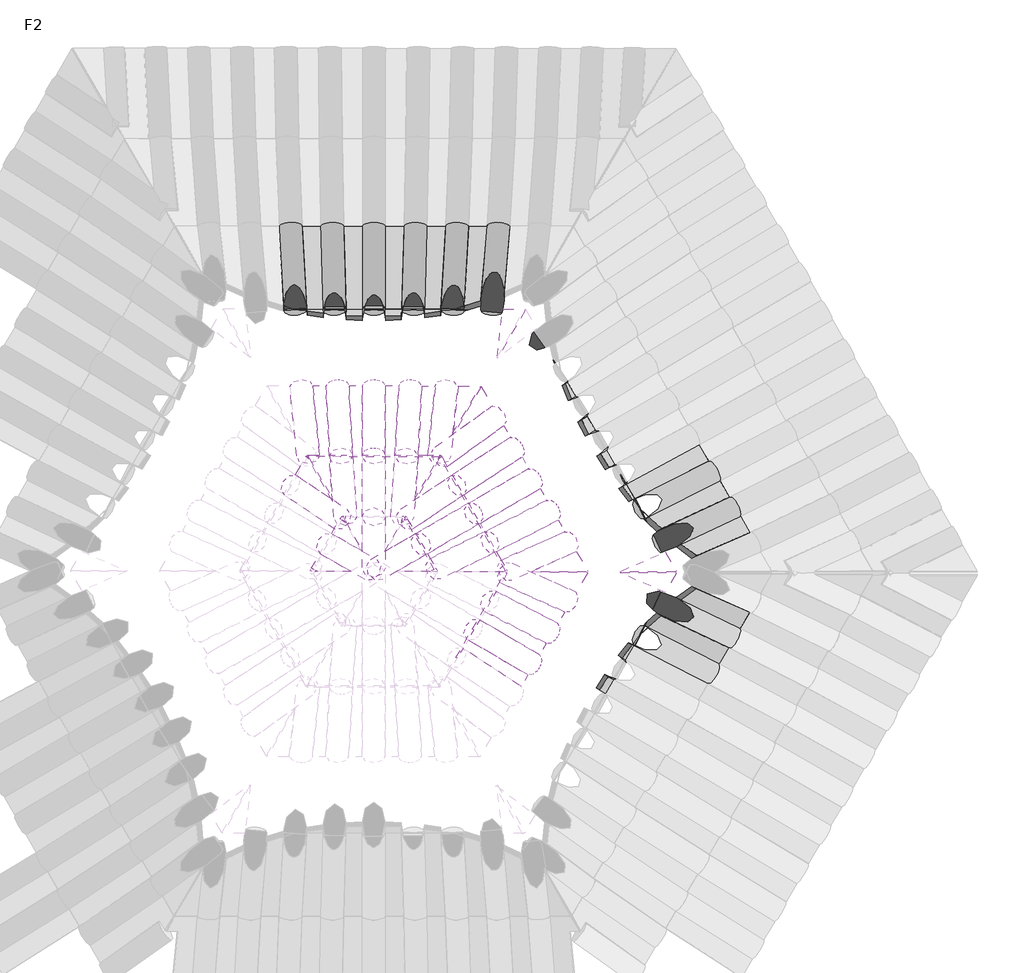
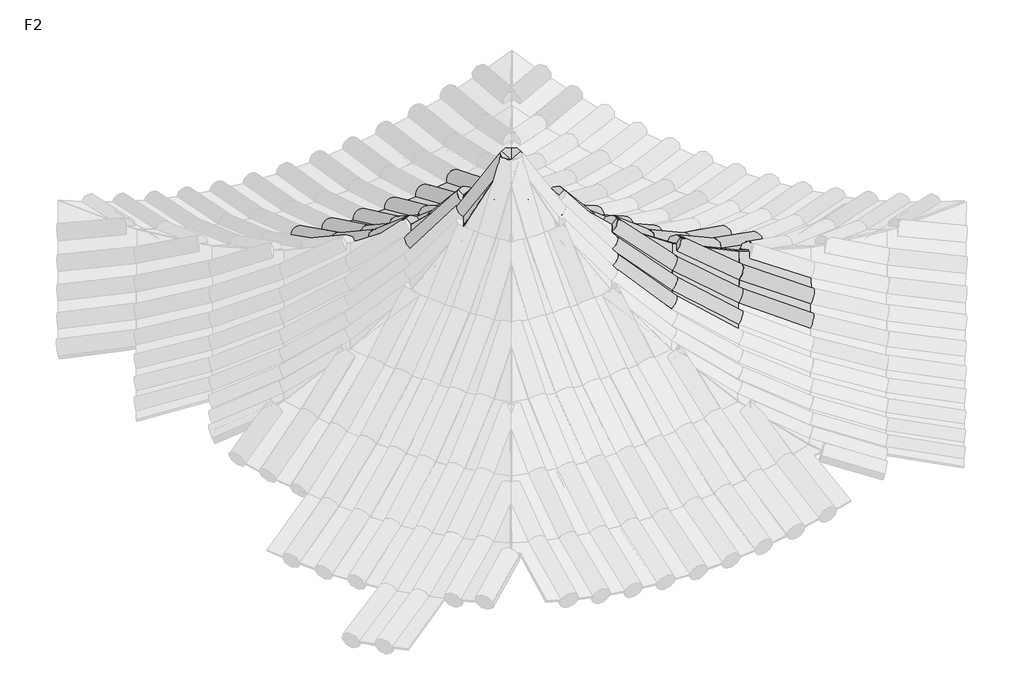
# One storey, part 5 of 6: 63 plates, 49 members.
"""IFC4 building model written with IfcOpenShell, lengths in millimetres."""

from ifc_helpers import new_model, si_unit, origin, place, context, project, spatial, transform, mapped, element, save
from components import member_02d8162e, member_c71233b3, member_69260188, member_985b398b, member_3c0b60bf, member_ee4a1047, member_c9bd8968, member_42887ada, plate_aaafe28a, plate_ecf98e0f, plate_a8a21952, plate_665b0e48, plate_f97c0013, plate_6a16cba0, plate_1539b490, plate_f5328a12, plate_b5858797, plate_013eb8b5, plate_5d4698b8, plate_7408a29d, plate_4d92cb37, plate_6c5d32f2, plate_1e680183, plate_9ed079f8, plate_51358e00, plate_0b5f84b8, plate_823a82dc, plate_c055fcc8

model = new_model("IFC4")

# Units and contexts
model_context = context("Model", 3, world=origin())
ifc_project = project(units=[si_unit("LENGTHUNIT", "METRE", prefix="MILLI")], contexts=[model_context])

# Site, building, storey
site = spatial("IfcSite", under=ifc_project)
building = spatial("IfcBuilding", under=site)
storey = spatial("IfcBuildingStorey", under=building, Name="F2", Elevation=4000.0)

# Members
placement = place(None, origin())
member_shape = member_02d8162e(model_context)
element("IfcMember", 1, ObjectType="矩形竖梃 : 圆瓦", at=placement, inside=storey, context=model_context, shape_type="MappedRepresentation", body=[
    mapped(member_shape, transform((-12317.9901863, 115.8201309, 4854.7494012), x_axis=(0.5016108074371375, 0.8566015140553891, 0.12091502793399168), y_axis=(0.31268739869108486, -0.3098485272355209, 0.8978978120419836), z_axis=(0.8066059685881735, -0.4125866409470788, -0.4232718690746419))),
])
element("IfcMember", 2, ObjectType="矩形竖梃 : 圆瓦", at=placement, inside=storey, context=model_context, shape_type="MappedRepresentation", body=[
    mapped(member_shape, transform((-13126.1918849, 149.9769408, 5158.3526132), x_axis=(0.5043906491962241, 0.861348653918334, 0.06056871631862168), y_axis=(0.44431822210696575, -0.3190507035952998, 0.8371307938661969), z_axis=(0.7403859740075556, -0.3953291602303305, -0.5436390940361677))),
])
element("IfcMember", 3, ObjectType="矩形竖梃 : 圆瓦", at=placement, inside=storey, context=model_context, shape_type="MappedRepresentation", body=[
    mapped(member_shape, transform((-12955.2995896, 441.809965, 5189.1817669), x_axis=(0.5016108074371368, 0.8566015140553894, 0.12091502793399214), y_axis=(0.4187437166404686, -0.36272432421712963, 0.8325171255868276), z_axis=(0.7569942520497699, -0.3669671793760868, -0.5406429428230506))),
])
element("IfcMember", 4, ObjectType="矩形竖梃 : 圆瓦", at=placement, inside=storey, context=model_context, shape_type="MappedRepresentation", body=[
    mapped(member_shape, transform((-13869.5313922, 191.9146, 5578.3897074), x_axis=(0.5053183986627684, 0.8629329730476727, 0.0), y_axis=(0.5634095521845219, -0.3299227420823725, 0.7574435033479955), z_axis=(0.6536229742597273, -0.3827501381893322, -0.6529007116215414))),
])
element("IfcMember", 5, ObjectType="矩形竖梃 : 圆瓦", at=placement, inside=storey, context=model_context, shape_type="MappedRepresentation", body=[
    mapped(member_shape, transform((-13711.1800472, 462.3314249, 5587.8886197), x_axis=(0.504390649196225, 0.8613486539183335, 0.06056871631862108), y_axis=(0.5402268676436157, -0.36951184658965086, 0.7560528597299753), z_axis=(0.6736059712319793, -0.34862514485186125, -0.651702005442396))),
])
element("IfcMember", 6, ObjectType="矩形竖梃 : 圆瓦", at=placement, inside=storey, context=model_context, shape_type="MappedRepresentation", body=[
    mapped(member_shape, transform((-13289.8090148, 2120.3333649, 5148.0636351), x_axis=(-0.49927815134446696, 0.8664417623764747, 0.0), y_axis=(0.47189800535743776, 0.27192637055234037, 0.8386705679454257), z_axis=(0.7266592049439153, 0.4187298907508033, -0.5446390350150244))),
])
element("IfcMember", 7, ObjectType="矩形竖梃 : 圆瓦", at=placement, inside=storey, context=model_context, shape_type="MappedRepresentation", body=[
    mapped(member_shape, transform((-13459.2808653, 2414.4329333, 5158.3526132), x_axis=(-0.4983614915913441, 0.8648510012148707, 0.06056871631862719), y_axis=(0.49725993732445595, 0.22791355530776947, 0.8371307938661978), z_axis=(0.7101889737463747, 0.4473121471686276, -0.5436390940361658))),
])
element("IfcMember", 8, ObjectType="矩形竖梃 : 圆瓦", at=placement, inside=storey, context=model_context, shape_type="MappedRepresentation", body=[
    mapped(member_shape, transform((-13628.1304253, 2707.4525858, 5189.1817669), x_axis=(-0.49561487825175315, 0.8600845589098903, 0.12091502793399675), y_axis=(0.5225287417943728, 0.1840623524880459, 0.8325171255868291), z_axis=(0.6937792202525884, 0.47578945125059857, -0.5406429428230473))),
])
element("IfcMember", 9, ObjectType="矩形竖梃 : 圆瓦", at=placement, inside=storey, context=model_context, shape_type="MappedRepresentation", body=[
    mapped(member_shape, transform((-13863.9514862, 1789.4896727, 5578.3897074), x_axis=(-0.49927815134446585, 0.8664417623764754, 0.0), y_axis=(0.5657004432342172, 0.32597906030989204, 0.7574435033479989), z_axis=(0.6562806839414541, 0.3781749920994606, -0.6529007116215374))),
])
element("IfcMember", 10, ObjectType="矩形竖梃 : 圆瓦", at=placement, inside=storey, context=model_context, shape_type="MappedRepresentation", body=[
    mapped(member_shape, transform((-14020.4100023, 2061.006045, 5587.8886197), x_axis=(-0.4983614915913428, 0.8648510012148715, 0.060568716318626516), y_axis=(0.5886060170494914, 0.2862289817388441, 0.7560528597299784), z_axis=(0.6365365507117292, 0.4124387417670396, -0.6517020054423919))),
])
element("IfcMember", 11, ObjectType="矩形竖梃 : 圆瓦", at=placement, inside=storey, context=model_context, shape_type="MappedRepresentation", body=[
    mapped(member_shape, transform((-14382.4870132, 1490.6889101, 6094.2546763), x_axis=(-0.49927815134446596, 0.8664417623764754, 0.0), y_axis=(0.6491401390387, 0.3740603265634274, 0.6623412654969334), z_axis=(0.5738801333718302, 0.3306925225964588, -0.7492022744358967))),
])
element("IfcMember", 12, ObjectType="矩形竖梃 : 圆瓦", at=placement, inside=storey, context=model_context, shape_type="MappedRepresentation", body=[
    mapped(member_shape, transform((-15239.3508382, 3963.0972434, 4811.1593559), x_axis=(-0.9999996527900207, 0.0008333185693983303, 0.0), y_axis=(0.00035532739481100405, 0.4264002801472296, 0.9045345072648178), z_axis=(0.0007537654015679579, 0.9045341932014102, -0.42640042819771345))),
])
element("IfcMember", 13, ObjectType="矩形竖梃 : 圆瓦", at=placement, inside=storey, context=model_context, shape_type="MappedRepresentation", body=[
    mapped(member_shape, transform((-15599.1903136, 3963.3971044, 4822.0668801), x_axis=(-0.9981636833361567, 0.0008317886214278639, 0.06056871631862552), y_axis=(0.055141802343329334, 0.42635462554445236, 0.9028738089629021), z_axis=(-0.02507275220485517, 0.9045557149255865, -0.42561756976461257))),
])
element("IfcMember", 14, ObjectType="矩形竖梃 : 圆瓦", at=placement, inside=storey, context=model_context, shape_type="MappedRepresentation", body=[
    mapped(member_shape, transform((-15957.70848, 3963.6958644, 4854.7494012), x_axis=(-0.9926625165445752, 0.000827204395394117, 0.12091502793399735), y_axis=(0.10972710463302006, 0.42630913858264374, 0.897897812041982), z_axis=(-0.05080443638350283, 0.9045771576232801, -0.4232718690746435))),
])
element("IfcMember", 15, ObjectType="矩形竖梃 : 圆瓦", at=placement, inside=storey, context=model_context, shape_type="MappedRepresentation", body=[
    mapped(member_shape, transform((-15239.9463976, 3248.4135325, 5148.0636351), x_axis=(-0.9999996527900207, 0.0008333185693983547, 0.0), y_axis=(0.0004538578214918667, 0.5446388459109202, 0.8386705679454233), z_axis=(0.0006988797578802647, 0.8386702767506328, -0.5446390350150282))),
])
element("IfcMember", 16, ObjectType="矩形竖梃 : 圆瓦", at=placement, inside=storey, context=model_context, shape_type="MappedRepresentation", body=[
    mapped(member_shape, transform((-15579.3800204, 3248.6963889, 5158.3526132), x_axis=(-0.9981636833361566, 0.0008317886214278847, 0.06056871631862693), y_axis=(0.05125103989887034, 0.5445965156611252, 0.8371307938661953), z_axis=(-0.03228919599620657, 0.8386977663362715, -0.5436390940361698))),
])
element("IfcMember", 17, ObjectType="矩形竖梃 : 圆瓦", at=placement, inside=storey, context=model_context, shape_type="MappedRepresentation", body=[
    mapped(member_shape, transform((-15917.5672632, 3248.9782067, 5189.1817669), x_axis=(-0.9926625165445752, 0.0008272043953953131, 0.1209150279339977), y_axis=(0.10186169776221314, 0.5445543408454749, 0.8325171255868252), z_axis=(-0.06515614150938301, 0.8387251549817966, -0.5406429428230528))),
])
element("IfcMember", 18, ObjectType="矩形竖梃 : 圆瓦", at=placement, inside=storey, context=model_context, shape_type="MappedRepresentation", body=[
    mapped(member_shape, transform((-15240.4985912, 2585.7697207, 5578.3897074), x_axis=(-0.9999996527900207, 0.0008333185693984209, 0.0), y_axis=(0.000544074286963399, 0.6529004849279, 0.7574435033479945), z_axis=(0.0006311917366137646, 0.7574432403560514, -0.6529007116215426))),
])
element("IfcMember", 19, ObjectType="矩形竖梃 : 圆瓦", at=placement, inside=storey, context=model_context, shape_type="MappedRepresentation", body=[
    mapped(member_shape, transform((-15553.8679252, 2586.0308573, 5587.8886197), x_axis=(-0.9981636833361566, 0.0008317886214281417, 0.06056871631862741), y_axis=(0.046421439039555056, 0.6528622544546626, 0.7560528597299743), z_axis=(-0.03891415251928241, 0.757476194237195, -0.6517020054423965))),
])
element("IfcMember", 20, ObjectType="矩形竖梃 : 圆瓦", at=placement, inside=storey, context=model_context, shape_type="MappedRepresentation", body=[
    mapped(member_shape, transform((-15240.9973036, 1987.3044003, 6094.2546763), x_axis=(-0.9999996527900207, 0.0008333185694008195, 0.0), y_axis=(0.0006243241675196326, 0.7492020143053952, 0.6623412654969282), z_axis=(0.0005519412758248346, 0.662341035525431, -0.7492022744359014))),
])
member_2_shape = member_c71233b3(model_context)
element("IfcMember", 21, ObjectType="矩形竖梃 : 圆瓦", at=placement, inside=storey, context=model_context, shape_type="MappedRepresentation", body=[
    mapped(member_2_shape, transform((-12138.15721, 422.9211692, 4909.0869108), x_axis=(0.4969890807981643, 0.8487089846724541, 0.1808173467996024), y_axis=(0.2853073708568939, -0.3566054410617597, 0.8896247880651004), z_axis=(0.8195130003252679, -0.39054528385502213, -0.41937193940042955))),
])
member_3_shape = member_69260188(model_context)
element("IfcMember", 22, ObjectType="矩形竖梃 : 圆瓦", at=placement, inside=storey, context=model_context, shape_type="MappedRepresentation", body=[
    mapped(member_3_shape, transform((-12785.6646195, 731.4958531, 5240.4378936), x_axis=(0.4969890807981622, 0.8487089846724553, 0.18081734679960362), y_axis=(0.3901168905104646, -0.4046551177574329, 0.8270810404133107), z_axis=(0.7751197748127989, -0.34051034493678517, -0.5322048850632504))),
])
element("IfcMember", 23, ObjectType="矩形竖梃 : 圆瓦", at=placement, inside=storey, context=model_context, shape_type="MappedRepresentation", body=[
    mapped(member_3_shape, transform((-13795.7376894, 2998.3163715, 5240.4378936), x_axis=(-0.4910483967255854, 0.8521599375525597, 0.18081734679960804), y_axis=(0.5447715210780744, 0.13842305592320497, 0.8270810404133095), z_axis=(0.6797760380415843, 0.5046409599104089, -0.5322048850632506))),
])
member_4_shape = member_985b398b(model_context)
element("IfcMember", 24, ObjectType="矩形竖梃 : 圆瓦", at=placement, inside=storey, context=model_context, shape_type="MappedRepresentation", body=[
    mapped(member_4_shape, transform((-13553.4101588, 731.7552955, 5616.3504772), x_axis=(0.5016108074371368, 0.8566015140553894, 0.12091502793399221), y_axis=(0.5171293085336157, -0.4089555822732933, 0.7518860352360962), z_axis=(0.6935155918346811, -0.3146254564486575, -0.648110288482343))),
])
element("IfcMember", 25, ObjectType="矩形竖梃 : 圆瓦", at=placement, inside=storey, context=model_context, shape_type="MappedRepresentation", body=[
    mapped(member_4_shape, transform((-14176.2940121, 2331.5254255, 5616.3504772), x_axis=(-0.4956148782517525, 0.8600845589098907, 0.12091502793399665), y_axis=(0.611427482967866, 0.2466248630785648, 0.7518860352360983), z_axis=(0.6168649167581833, 0.44657667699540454, -0.6481102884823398))),
])
element("IfcMember", 26, ObjectType="矩形竖梃 : 圆瓦", at=placement, inside=storey, context=model_context, shape_type="MappedRepresentation", body=[
    mapped(member_4_shape, transform((-14523.3454442, 1735.1330679, 6102.8064759), x_axis=(-0.4983614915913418, 0.8648510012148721, 0.06056871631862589), y_axis=(0.669169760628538, 0.33930114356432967, 0.6611252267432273), z_axis=(0.5512237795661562, 0.3700101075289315, -0.7478267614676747))),
])
element("IfcMember", 27, ObjectType="矩形竖梃 : 圆瓦", at=placement, inside=storey, context=model_context, shape_type="MappedRepresentation", body=[
    mapped(member_4_shape, transform((-14835.9168409, 1229.4046369, 6686.2087072), x_axis=(-0.4992781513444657, 0.8664417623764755, 0.0), y_axis=(0.7206886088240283, 0.4152893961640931, 0.5551059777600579), z_axis=(0.48096700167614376, 0.2771522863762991, -0.8317796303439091))),
])
element("IfcMember", 28, ObjectType="矩形竖梃 : 圆瓦", at=placement, inside=storey, context=model_context, shape_type="MappedRepresentation", body=[
    mapped(member_4_shape, transform((-15866.0865858, 2586.291035, 5616.3504772), x_axis=(-0.9926625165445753, 0.0008272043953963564, 0.12091502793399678), y_axis=(0.09213034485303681, 0.6528241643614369, 0.7518860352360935), z_axis=(-0.07831428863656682, 0.7575090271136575, -0.6481102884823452))),
])
element("IfcMember", 29, ObjectType="矩形竖梃 : 圆瓦", at=placement, inside=storey, context=model_context, shape_type="MappedRepresentation", body=[
    mapped(member_4_shape, transform((-15523.1213695, 1987.5394996, 6102.8064759), x_axis=(-0.9981636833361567, 0.0008317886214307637, 0.06056871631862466), y_axis=(0.04074147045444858, 0.7491685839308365, 0.6611252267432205), z_axis=(-0.04482626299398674, 0.6623788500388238, -0.7478267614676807))),
])
element("IfcMember", 30, ObjectType="矩形竖梃 : 圆瓦", at=placement, inside=storey, context=model_context, shape_type="MappedRepresentation", body=[
    mapped(member_4_shape, transform((-15241.4333993, 1463.9805141, 6686.2087072), x_axis=(-0.9999996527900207, 0.0008333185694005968, 0.0), y_axis=(0.0006931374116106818, 0.8317793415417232, 0.5551059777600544), z_axis=(0.0004625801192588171, 0.5551057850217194, -0.8317796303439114))),
])
element("IfcMember", 31, ObjectType="矩形竖梃 : 圆瓦", at=placement, inside=storey, context=model_context, shape_type="MappedRepresentation", body=[
    mapped(member_4_shape, transform((-15647.3403472, 1230.0808115, 6686.2087072), x_axis=(-0.5007215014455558, -0.8656084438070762, 0.0), y_axis=(-0.7199954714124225, 0.41648994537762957, 0.5551059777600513), z_axis=(-0.48050442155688, 0.27795349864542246, -0.8317796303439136))),
])
member_5_shape = member_3c0b60bf(model_context)
element("IfcMember", 32, ObjectType="矩形竖梃 : 圆瓦", at=placement, inside=storey, context=model_context, shape_type="MappedRepresentation", body=[
    mapped(member_5_shape, transform((-12311.9165858, 1854.7441735, 4854.7494012), x_axis=(-0.4956148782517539, 0.8600845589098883, -0.12091502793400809), y_axis=(0.3148441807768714, 0.30765672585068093, 0.8978978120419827), z_axis=(0.809468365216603, 0.4069421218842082, -0.42327186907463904))),
])
element("IfcMember", 33, ObjectType="矩形竖梃 : 圆瓦", at=placement, inside=storey, context=model_context, shape_type="MappedRepresentation", body=[
    mapped(member_5_shape, transform((-12951.4876042, 1533.214144, 5189.1817669), x_axis=(-0.49561487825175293, 0.8600845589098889, -0.12091502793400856), y_axis=(0.42126726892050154, 0.35979038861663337, 0.8325171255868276), z_axis=(0.7595391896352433, 0.361670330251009, -0.5406429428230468))),
])
element("IfcMember", 34, ObjectType="矩形竖梃 : 圆瓦", at=placement, inside=storey, context=model_context, shape_type="MappedRepresentation", body=[
    mapped(member_5_shape, transform((-13120.3371643, 1826.2337965, 5158.3526132), x_axis=(-0.49836149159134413, 0.86485100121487, -0.060568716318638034), y_axis=(0.4465360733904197, 0.31593918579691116, 0.8371307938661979), z_axis=(0.7431294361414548, 0.3901476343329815, -0.5436390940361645))),
])
element("IfcMember", 35, ObjectType="矩形竖梃 : 圆瓦", at=placement, inside=storey, context=model_context, shape_type="MappedRepresentation", body=[
    mapped(member_5_shape, transform((-13707.4929701, 1517.9733004, 5587.8886197), x_axis=(-0.49836149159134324, 0.8648510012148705, -0.06056871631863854), y_axis=(0.542794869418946, 0.36572913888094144, 0.7560528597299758), z_axis=(0.6760248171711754, 0.34391124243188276, -0.6517020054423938))),
])
element("IfcMember", 36, ObjectType="矩形竖梃 : 圆瓦", at=placement, inside=storey, context=model_context, shape_type="MappedRepresentation", body=[
    mapped(member_5_shape, transform((-14520.9931964, 3962.4986224, 4854.7494012), x_axis=(-0.9926625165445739, 0.000827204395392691, -0.120915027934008), y_axis=(-0.10901644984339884, 0.42649142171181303, 0.8978978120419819), z_axis=(0.05231196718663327, 0.9044912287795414, -0.4232718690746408))),
])
element("IfcMember", 37, ObjectType="矩形竖梃 : 圆瓦", at=placement, inside=storey, context=model_context, shape_type="MappedRepresentation", body=[
    mapped(member_5_shape, transform((-14879.5113628, 3962.7973824, 4822.0668801), x_axis=(-0.9981636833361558, 0.000831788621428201, -0.06056871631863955), y_axis=(-0.05443114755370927, 0.4264459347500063, 0.9028738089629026), z_axis=(0.026580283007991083, 0.904512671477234, -0.42561756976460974))),
])
element("IfcMember", 38, ObjectType="矩形竖梃 : 圆瓦", at=placement, inside=storey, context=model_context, shape_type="MappedRepresentation", body=[
    mapped(member_5_shape, transform((-14562.325532, 3247.8488582, 5189.1817669), x_axis=(-0.9926625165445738, 0.0008272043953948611, -0.12091502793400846), y_axis=(-0.10095398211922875, 0.5447233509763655, 0.8325171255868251), z_axis=(0.06655390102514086, 0.8386153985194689, -0.5406429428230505))),
])
element("IfcMember", 39, ObjectType="矩形竖梃 : 圆瓦", at=placement, inside=storey, context=model_context, shape_type="MappedRepresentation", body=[
    mapped(member_5_shape, transform((-14900.5127748, 3248.130676, 5158.3526132), x_axis=(-0.9981636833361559, 0.0008317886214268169, -0.06056871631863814), y_axis=(-0.05034332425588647, 0.544681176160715, 0.8371307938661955), z_axis=(0.03368695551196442, 0.8386427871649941, -0.5436390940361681))),
])
element("IfcMember", 40, ObjectType="矩形竖梃 : 圆瓦", at=placement, inside=storey, context=model_context, shape_type="MappedRepresentation", body=[
    mapped(member_5_shape, transform((-14927.1292572, 2585.5085842, 5587.8886197), x_axis=(-0.9981636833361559, 0.0008317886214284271, -0.06056871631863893), y_axis=(-0.04533329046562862, 0.652938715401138, 0.7560528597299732), z_axis=(0.04017653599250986, 0.7574102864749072, -0.6517020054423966))),
])
member_6_shape = member_ee4a1047(model_context)
element("IfcMember", 41, ObjectType="矩形竖梃 : 圆瓦", at=placement, inside=storey, context=model_context, shape_type="MappedRepresentation", body=[
    mapped(member_6_shape, transform((-12134.2332159, 1546.3944254, 4909.0869108), x_axis=(-0.49104839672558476, 0.8521599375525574, -0.18081734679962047), y_axis=(0.28779143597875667, 0.35460375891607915, 0.8896247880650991), z_axis=(0.8222211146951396, 0.38481114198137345, -0.4193719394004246))),
])
element("IfcMember", 42, ObjectType="矩形竖梃 : 圆瓦", at=placement, inside=storey, context=model_context, shape_type="MappedRepresentation", body=[
    mapped(member_6_shape, transform((-14165.1127963, 3962.2020606, 4909.0869108), x_axis=(-0.9835163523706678, 0.0008195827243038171, -0.18081734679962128), y_axis=(-0.163200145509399, 0.42653657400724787, 0.889624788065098), z_axis=(0.07785433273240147, 0.9044699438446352, -0.41937193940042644))),
])
member_7_shape = member_c9bd8968(model_context)
element("IfcMember", 43, ObjectType="矩形竖梃 : 圆瓦", at=placement, inside=storey, context=model_context, shape_type="MappedRepresentation", body=[
    mapped(member_7_shape, transform((-12783.8803402, 1242.3503583, 5240.4378936), x_axis=(-0.4910483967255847, 0.8521599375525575, -0.18081734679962), y_axis=(0.39293215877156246, 0.40191931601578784, 0.8270823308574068), z_axis=(0.7774804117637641, 0.33508850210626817, -0.5322028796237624))),
])
element("IfcMember", 44, ObjectType="矩形竖梃 : 圆瓦", at=placement, inside=storey, context=model_context, shape_type="MappedRepresentation", body=[
    mapped(member_7_shape, transform((-14226.6264725, 3247.5691139, 5240.4378936), x_axis=(-0.9835163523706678, 0.0008195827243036, -0.18081734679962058), y_axis=(-0.1516062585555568, 0.54124888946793, 0.8270823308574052), z_axis=(0.0985450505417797, 0.840862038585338, -0.5322028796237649))),
])
member_8_shape = member_42887ada(model_context)
element("IfcMember", 45, ObjectType="矩形竖梃 : 圆瓦", at=placement, inside=storey, context=model_context, shape_type="MappedRepresentation", body=[
    mapped(member_8_shape, transform((-13551.6089603, 1247.4539199, 5616.3504772), x_axis=(-0.49561487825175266, 0.8600845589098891, -0.12091502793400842), y_axis=(0.5199734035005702, 0.40533325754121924, 0.7518860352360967), z_axis=(0.6956964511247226, 0.30977330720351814, -0.6481102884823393))),
])
element("IfcMember", 46, ObjectType="矩形竖梃 : 圆瓦", at=placement, inside=storey, context=model_context, shape_type="MappedRepresentation", body=[
    mapped(member_8_shape, transform((-14241.6285823, 1246.2447524, 6102.8064759), x_axis=(-0.49836149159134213, 0.864851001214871, -0.060568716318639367), y_axis=(0.6291105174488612, 0.40881950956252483, 0.6611252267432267), z_axis=(0.596536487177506, 0.2913749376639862, -0.7478267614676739))),
])
element("IfcMember", 47, ObjectType="矩形竖梃 : 圆瓦", at=placement, inside=storey, context=model_context, shape_type="MappedRepresentation", body=[
    mapped(member_8_shape, transform((-14614.9105966, 2585.2484065, 5616.3504772), x_axis=(-0.9926625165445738, 0.0008272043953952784, -0.12091502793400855), y_axis=(-0.09104219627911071, 0.6529768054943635, 0.7518860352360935), z_axis=(0.07957667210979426, 0.7573774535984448, -0.648110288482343))),
])
element("IfcMember", 48, ObjectType="矩形竖梃 : 圆瓦", at=placement, inside=storey, context=model_context, shape_type="MappedRepresentation", body=[
    mapped(member_8_shape, transform((-14958.8732377, 1987.069301, 6102.8064759), x_axis=(-0.9981636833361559, 0.0008317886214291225, -0.060568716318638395), y_axis=(-0.03949282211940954, 0.749235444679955, 0.6611252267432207), z_axis=(0.04593014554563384, 0.6623032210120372, -0.7478267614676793))),
])
element("IfcMember", 49, ObjectType="矩形竖梃 : 圆瓦", at=placement, inside=storey, context=model_context, shape_type="MappedRepresentation", body=[
    mapped(member_8_shape, transform((-15959.0684443, 1736.3294829, 6102.8064759), x_axis=(-0.49980219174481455, -0.864019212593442, -0.060568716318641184), y_axis=(-0.6686033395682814, 0.3404159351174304, 0.6611252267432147), z_axis=(-0.5506063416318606, 0.37092828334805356, -0.7478267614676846))),
])

# Plates
plate_shape = plate_aaafe28a(model_context)
element("IfcPlate", 50, ObjectType="空系统嵌板 : 空", at=placement, inside=storey, context=model_context, shape_type="MappedRepresentation", body=[
    mapped(plate_shape, transform((-12045.974509, 1393.2312451, 4947.1566825), x_axis=(-0.4880876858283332, 0.8470219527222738, -0.2105331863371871), y_axis=(-0.2742246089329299, -0.37782664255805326, -0.8843347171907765), z_axis=(-0.8285959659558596, -0.37389950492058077, 0.4166867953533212))),
])
plate_2_shape = plate_ecf98e0f(model_context)
element("IfcPlate", 51, ObjectType="空系统嵌板 : 空", at=placement, inside=storey, context=model_context, shape_type="MappedRepresentation", body=[
    mapped(plate_2_shape, transform((-12228.0736982, 269.37065, 4881.918156), x_axis=(0.49952927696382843, 0.8530468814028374, 0.15093548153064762), y_axis=(-0.2988217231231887, 0.33320995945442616, -0.8942464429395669), z_axis=(-0.8131273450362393, 0.40159947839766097, 0.42135706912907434))),
])
element("IfcPlate", 52, ObjectType="空系统嵌板 : 空", at=placement, inside=storey, context=model_context, shape_type="MappedRepresentation", body=[
    mapped(plate_2_shape, transform((-12223.0749008, 1700.5692995, 4881.918156), x_axis=(-0.4935582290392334, 0.8565154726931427, -0.15093548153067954), y_axis=(-0.3011420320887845, -0.33111444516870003, -0.8942464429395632), z_axis=(-0.8159128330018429, -0.3959096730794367, 0.4213570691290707))),
])
element("IfcPlate", 53, ObjectType="空系统嵌板 : 空", at=placement, inside=storey, context=model_context, shape_type="MappedRepresentation", body=[
    mapped(plate_2_shape, transform((-12401.4167606, 2010.0617834, 4838.4081407), x_axis=(-0.4972164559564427, 0.8628639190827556, -0.09078355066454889), y_axis=(-0.3283097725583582, -0.2839678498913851, -0.9008745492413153), z_axis=(-0.8031117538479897, -0.4181245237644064, 0.4244801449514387))),
])
element("IfcPlate", 54, ObjectType="空系统嵌板 : 空", at=placement, inside=storey, context=model_context, shape_type="MappedRepresentation", body=[
    mapped(plate_2_shape, transform((-14343.0529964, 3962.3503415, 4881.918156), x_axis=(-0.9885432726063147, 0.0008237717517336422, -0.15093548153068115), y_axis=(0.13618250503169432, -0.4263538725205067, -0.8942464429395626), z_axis=(-0.06508858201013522, -0.9045560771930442, 0.42135706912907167))),
])
element("IfcPlate", 55, ObjectType="空系统嵌板 : 空", at=placement, inside=storey, context=model_context, shape_type="MappedRepresentation", body=[
    mapped(plate_2_shape, transform((-14700.2522796, 3962.6480024, 4838.4081407), x_axis=(-0.9958703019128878, 0.0008298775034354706, -0.09078355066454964), y_axis=(0.08176848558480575, -0.42630852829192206, -0.9008745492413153), z_axis=(-0.03944941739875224, -0.9045774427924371, 0.4244801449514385))),
])
element("IfcPlate", 56, ObjectType="空系统嵌板 : 空", at=placement, inside=storey, context=model_context, shape_type="MappedRepresentation", body=[
    mapped(plate_2_shape, transform((-15059.4311005, 3962.9473129, 4816.613118), x_axis=(-0.999540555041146, 0.000832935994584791, -0.030298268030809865), y_axis=(0.027052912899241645, -0.4262629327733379, -0.9041946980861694), z_axis=(-0.013668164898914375, -0.9045989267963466, 0.4260445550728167))),
])
element("IfcPlate", 57, ObjectType="空系统嵌板 : 空", at=placement, inside=storey, context=model_context, shape_type="MappedRepresentation", body=[
    mapped(plate_2_shape, transform((-15419.2705759, 3963.2471739, 4816.613118), x_axis=(-0.9995405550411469, 0.0008329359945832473, 0.03029826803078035), y_axis=(-0.027763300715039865, -0.4262172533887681, -0.9041946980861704), z_axis=(0.012160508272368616, -0.9046204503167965, 0.4260445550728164))),
])
element("IfcPlate", 58, ObjectType="空系统嵌板 : 空", at=placement, inside=storey, context=model_context, shape_type="MappedRepresentation", body=[
    mapped(plate_2_shape, transform((-15778.4493968, 3963.5464844, 4838.4081407), x_axis=(-0.9958703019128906, 0.0008298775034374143, 0.09078355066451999), y_axis=(-0.08247887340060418, -0.4261716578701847, -0.9008745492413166), z_axis=(0.0379417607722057, -0.9046419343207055, 0.424480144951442))),
])
plate_3_shape = plate_a8a21952(model_context)
element("IfcPlate", 59, ObjectType="空系统嵌板 : 空", at=placement, inside=storey, context=model_context, shape_type="MappedRepresentation", body=[
    mapped(plate_3_shape, transform((-12687.2768197, 1075.8053258, 5281.5374011), x_axis=(-0.4880876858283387, 0.8470219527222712, -0.21053318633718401), y_axis=(-0.3835770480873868, -0.4248452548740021, -0.8199848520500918), z_axis=(-0.7839891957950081, -0.3194688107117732, 0.5322599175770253))),
])
element("IfcPlate", 60, ObjectType="空系统嵌板 : 空", at=placement, inside=storey, context=model_context, shape_type="MappedRepresentation", body=[
    mapped(plate_3_shape, transform((-14034.0924832, 3247.9577005, 5281.5374011), x_axis=(-0.977586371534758, 0.000814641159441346, -0.21053318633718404), y_axis=(0.17613825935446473, -0.5446100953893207, -0.819984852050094), z_axis=(-0.11532649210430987, -0.8386889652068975, 0.532259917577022))),
])
plate_4_shape = plate_665b0e48(model_context)
element("IfcPlate", 61, ObjectType="空系统嵌板 : 空", at=placement, inside=storey, context=model_context, shape_type="MappedRepresentation", body=[
    mapped(plate_4_shape, transform((-12867.4658131, 1387.4036603, 5214.8765457), x_axis=(-0.4935582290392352, 0.8565154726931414, -0.15093548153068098), y_axis=(-0.4085357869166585, -0.3815321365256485, -0.8291753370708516), z_axis=(-0.7677882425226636, -0.3475837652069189, 0.5382255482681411))),
])
element("IfcPlate", 62, ObjectType="空系统嵌板 : 空", at=placement, inside=storey, context=model_context, shape_type="MappedRepresentation", body=[
    mapped(plate_4_shape, transform((-14394.0390534, 3247.7086219, 5214.8765457), x_axis=(-0.9885432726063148, 0.0008237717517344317, -0.1509354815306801), y_axis=(0.12614862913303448, -0.5445684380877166, -0.829175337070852), z_axis=(-0.0828777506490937, -0.8387160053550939, 0.5382255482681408))),
])
plate_5_shape = plate_f97c0013(model_context)
element("IfcPlate", 63, ObjectType="空系统嵌板 : 空", at=placement, inside=storey, context=model_context, shape_type="MappedRepresentation", body=[
    mapped(plate_5_shape, transform((-13453.6803481, 1078.0096168, 5646.0144329), x_axis=(-0.4935582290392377, 0.8565154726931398, -0.15093548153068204), y_axis=(-0.5084602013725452, -0.4249686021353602, -0.7489124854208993), z_axis=(-0.7055979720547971, -0.2928872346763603, 0.6452507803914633))),
])
element("IfcPlate", 64, ObjectType="空系统嵌板 : 空", at=placement, inside=storey, context=model_context, shape_type="MappedRepresentation", body=[
    mapped(plate_5_shape, transform((-14419.2032194, 2585.3349208, 5646.0144329), x_axis=(-0.9885432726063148, 0.0008237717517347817, -0.15093548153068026), y_axis=(0.11380350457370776, -0.6528237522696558, -0.7489124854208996), z_axis=(-0.09915120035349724, -0.7575093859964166, 0.6452507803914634))),
])
plate_6_shape = plate_6a16cba0(model_context)
element("IfcPlate", 65, ObjectType="空系统嵌板 : 空", at=placement, inside=storey, context=model_context, shape_type="MappedRepresentation", body=[
    mapped(plate_6_shape, transform((-13211.952942, 3.5226573, 5153.2081241), x_axis=(0.5050864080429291, 0.8625368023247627, 0.030298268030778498), y_axis=(-0.45699316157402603, 0.2970575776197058, -0.8383996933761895), z_axis=(-0.7321509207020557, 0.40961818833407, 0.5442131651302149))),
])
element("IfcPlate", 66, ObjectType="空系统嵌板 : 空", at=placement, inside=storey, context=model_context, shape_type="MappedRepresentation", body=[
    mapped(plate_6_shape, transform((-13040.7457372, 295.8934529, 5173.76719), x_axis=(0.5032317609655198, 0.8593696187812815, 0.09078355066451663), y_axis=(-0.43135627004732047, 0.34083773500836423, -0.8353211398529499), z_axis=(-0.748792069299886, 0.38120007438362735, 0.5422148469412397))),
])
element("IfcPlate", 67, ObjectType="空系统嵌板 : 空", at=placement, inside=storey, context=model_context, shape_type="MappedRepresentation", body=[
    mapped(plate_6_shape, transform((-13035.9123842, 1679.7239703, 5173.76719), x_axis=(-0.49721645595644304, 0.8628639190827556, -0.09078355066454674), y_axis=(-0.4337266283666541, -0.33781622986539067, -0.8353211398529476), z_axis=(-0.7514366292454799, -0.37596017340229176, 0.5422148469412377))),
])
element("IfcPlate", 68, ObjectType="空系统嵌板 : 空", at=placement, inside=storey, context=model_context, shape_type="MappedRepresentation", body=[
    mapped(plate_6_shape, transform((-13205.0730895, 1973.2835807, 5153.2081241), x_axis=(-0.4990489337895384, 0.8660439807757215, -0.030298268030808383), y_axis=(-0.45905707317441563, -0.2938580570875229, -0.8383996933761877), z_axis=(-0.7349943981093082, -0.40449383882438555, 0.5442131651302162))),
])
element("IfcPlate", 69, ObjectType="空系统嵌板 : 空", at=placement, inside=storey, context=model_context, shape_type="MappedRepresentation", body=[
    mapped(plate_6_shape, transform((-13374.54494, 2267.3831491, 5153.2081241), x_axis=(-0.49904893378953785, 0.8660439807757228, 0.030298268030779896), y_axis=(-0.4844341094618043, -0.24981902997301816, -0.8383996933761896), z_axis=(-0.7185219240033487, -0.43307998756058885, 0.5442131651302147))),
])
element("IfcPlate", 70, ObjectType="空系统嵌板 : 空", at=placement, inside=storey, context=model_context, shape_type="MappedRepresentation", body=[
    mapped(plate_6_shape, transform((-13543.7056453, 2560.9427596, 5173.76719), x_axis=(-0.4972164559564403, 0.8628639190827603, 0.09078355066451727), y_axis=(-0.5097645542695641, -0.20586085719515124, -0.8353211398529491), z_axis=(-0.7020796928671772, -0.4616136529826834, 0.5422148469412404))),
])
element("IfcPlate", 71, ObjectType="空系统嵌板 : 空", at=placement, inside=storey, context=model_context, shape_type="MappedRepresentation", body=[
    mapped(plate_6_shape, transform((-14731.4191534, 3247.9897671, 5173.76719), x_axis=(-0.9958703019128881, 0.0008298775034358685, -0.09078355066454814), y_axis=(0.0756941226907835, -0.5445263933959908, -0.8353211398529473), z_axis=(-0.05012725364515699, -0.8387432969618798, 0.5422148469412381))),
])
element("IfcPlate", 72, ObjectType="空系统嵌板 : 空", at=placement, inside=storey, context=model_context, shape_type="MappedRepresentation", body=[
    mapped(plate_6_shape, transform((-15070.2295862, 3248.2721043, 5153.2081241), x_axis=(-0.999540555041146, 0.0008329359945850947, -0.030298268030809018), y_axis=(0.02496000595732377, -0.544484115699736, -0.8383996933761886), z_axis=(-0.01719525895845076, -0.8387707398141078, 0.5442131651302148))),
])
element("IfcPlate", 73, ObjectType="空系统嵌板 : 空", at=placement, inside=storey, context=model_context, shape_type="MappedRepresentation", body=[
    mapped(plate_6_shape, transform((-15409.663209, 3248.5549607, 5153.2081241), x_axis=(-0.9995405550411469, 0.0008329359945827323, 0.030298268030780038), y_axis=(-0.025867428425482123, -0.5444417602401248, -0.8383996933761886), z_axis=(0.01579730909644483, -0.8387982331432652, 0.5442131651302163))),
])
element("IfcPlate", 74, ObjectType="空系统嵌板 : 空", at=placement, inside=storey, context=model_context, shape_type="MappedRepresentation", body=[
    mapped(plate_6_shape, transform((-15748.4736418, 3248.8372978, 5173.76719), x_axis=(-0.9958703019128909, 0.0008298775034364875, 0.09078355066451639), y_axis=(-0.07660154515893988, -0.5443994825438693, -0.8353211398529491), z_axis=(0.04872930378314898, -0.8388256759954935, 0.5422148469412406))),
])
plate_7_shape = plate_1539b490(model_context)
element("IfcPlate", 75, ObjectType="空系统嵌板 : 空", at=placement, inside=storey, context=model_context, shape_type="MappedRepresentation", body=[
    mapped(plate_7_shape, transform((-13948.7070648, 56.7061875, 5583.1391635), x_axis=(0.5050864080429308, 0.8625368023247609, -0.03029826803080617), y_axis=(-0.5748600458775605, 0.310028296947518, -0.7572439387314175), z_axis=(-0.6437574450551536, 0.3998908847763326, 0.6524290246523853))),
])
element("IfcPlate", 76, ObjectType="空系统嵌板 : 空", at=placement, inside=storey, context=model_context, shape_type="MappedRepresentation", body=[
    mapped(plate_7_shape, transform((-13790.3557197, 327.1230124, 5583.1391635), x_axis=(0.5050864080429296, 0.8625368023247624, 0.03029826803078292), y_axis=(-0.5516621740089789, 0.3496433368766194, -0.7572439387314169), z_axis=(-0.6637443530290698, 0.3657592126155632, 0.652429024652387))),
])
element("IfcPlate", 77, ObjectType="空系统嵌板 : 空", at=placement, inside=storey, context=model_context, shape_type="MappedRepresentation", body=[
    mapped(plate_7_shape, transform((-13632.295103, 597.0433602, 5602.1195484), x_axis=(0.5032317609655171, 0.8593696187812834, 0.09078355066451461), y_axis=(-0.528506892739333, 0.3891856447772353, -0.7544633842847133), z_axis=(-0.6836945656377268, 0.33169020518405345, 0.6500333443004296))),
])
element("IfcPlate", 78, ObjectType="空系统嵌板 : 空", at=placement, inside=storey, context=model_context, shape_type="MappedRepresentation", body=[
    mapped(plate_7_shape, transform((-13629.5509652, 1382.7136102, 5602.1195484), x_axis=(-0.4972164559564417, 0.8628639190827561, -0.09078355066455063), y_axis=(-0.5312126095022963, -0.3854843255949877, -0.7544633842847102), z_axis=(-0.6859948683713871, -0.3269062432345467, 0.6500333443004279))),
])
element("IfcPlate", 79, ObjectType="空系统嵌板 : 空", at=placement, inside=storey, context=model_context, shape_type="MappedRepresentation", body=[
    mapped(plate_7_shape, transform((-13785.7222281, 1653.7314865, 5583.1391635), x_axis=(-0.49904893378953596, 0.8660439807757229, -0.030298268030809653), y_axis=(-0.554091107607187, -0.3457812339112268, -0.7572439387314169), z_axis=(-0.6662831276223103, -0.3611137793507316, 0.6524290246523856))),
])
element("IfcPlate", 80, ObjectType="空系统嵌板 : 空", at=placement, inside=storey, context=model_context, shape_type="MappedRepresentation", body=[
    mapped(plate_7_shape, transform((-13942.1807442, 1925.2478589, 5583.1391635), x_axis=(-0.49904893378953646, 0.8660439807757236, 0.030298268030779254), y_axis=(-0.5770116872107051, -0.30600511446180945, -0.7572439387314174), z_axis=(-0.6465351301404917, -0.39538423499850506, 0.6524290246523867))),
])
element("IfcPlate", 81, ObjectType="空系统嵌板 : 空", at=placement, inside=storey, context=model_context, shape_type="MappedRepresentation", body=[
    mapped(plate_7_shape, transform((-14098.3520072, 2196.2657353, 5602.1195484), x_axis=(-0.4972164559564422, 0.8628639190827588, 0.09078355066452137), y_axis=(-0.5998901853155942, -0.26630202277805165, -0.7544633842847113), z_axis=(-0.6268233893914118, -0.4295917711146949, 0.6500333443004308))),
])
element("IfcPlate", 82, ObjectType="空系统嵌板 : 空", at=placement, inside=storey, context=model_context, shape_type="MappedRepresentation", body=[
    mapped(plate_7_shape, transform((-14771.0199269, 2585.3784953, 5602.1195484), x_axis=(-0.995870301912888, 0.0008298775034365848, -0.09078355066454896), y_axis=(0.06823291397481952, -0.6527857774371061, -0.75446338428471), z_axis=(-0.059888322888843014, -0.7575421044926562, 0.6500333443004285))),
])
element("IfcPlate", 83, ObjectType="空系统嵌板 : 空", at=placement, inside=storey, context=model_context, shape_type="MappedRepresentation", body=[
    mapped(plate_7_shape, transform((-15083.8139242, 2585.6391525, 5583.1391635), x_axis=(-0.9995405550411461, 0.0008329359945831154, -0.030298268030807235), y_axis=(0.022409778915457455, -0.6527475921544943, -0.7572439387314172), z_axis=(-0.0204078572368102, -0.757575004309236, 0.6524290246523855))),
])
element("IfcPlate", 84, ObjectType="空系统嵌板 : 空", at=placement, inside=storey, context=model_context, shape_type="MappedRepresentation", body=[
    mapped(plate_7_shape, transform((-15397.1832582, 2585.900289, 5583.1391635), x_axis=(-0.999540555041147, 0.0008329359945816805, 0.030298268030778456), y_axis=(-0.023497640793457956, -0.6527093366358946, -0.7572439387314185), z_axis=(0.01914522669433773, -0.7576079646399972, 0.6524290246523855))),
])
element("IfcPlate", 85, ObjectType="空系统嵌板 : 空", at=placement, inside=storey, context=model_context, shape_type="MappedRepresentation", body=[
    mapped(plate_7_shape, transform((-15709.9772555, 2586.1609462, 5602.1195484), x_axis=(-0.9958703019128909, 0.0008298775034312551, 0.090783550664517), y_axis=(-0.0693207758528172, -0.6526711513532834, -0.7544633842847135), z_axis=(0.058625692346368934, -0.7576408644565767, 0.6500333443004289))),
])
plate_8_shape = plate_f5328a12(model_context)
element("IfcPlate", 86, ObjectType="空系统嵌板 : 空", at=placement, inside=storey, context=model_context, shape_type="MappedRepresentation", body=[
    mapped(plate_8_shape, transform((-14673.0865855, 1986.9686545, 6128.9905814), x_axis=(-0.9885432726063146, 0.0008237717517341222, -0.1509354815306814), y_axis=(0.09937233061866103, -0.7491343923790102, -0.6549219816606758), z_axis=(-0.11361046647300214, -0.662417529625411, 0.7404699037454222))),
])
element("IfcPlate", 87, ObjectType="空系统嵌板 : 空", at=placement, inside=storey, context=model_context, shape_type="MappedRepresentation", body=[
    mapped(plate_8_shape, transform((-15816.0879558, 1983.7776605, 6128.9905814), x_axis=(-0.4949850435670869, -0.8556917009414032, -0.15093548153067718), y_axis=(0.6984555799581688, -0.28850823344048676, -0.6549219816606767), z_axis=(0.5168651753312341, -0.42959831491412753, 0.7404699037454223))),
])
plate_9_shape = plate_b5858797(model_context)
element("IfcPlate", 88, ObjectType="空系统嵌板 : 空", at=placement, inside=storey, context=model_context, shape_type="MappedRepresentation", body=[
    mapped(plate_9_shape, transform((-14146.5907484, 1081.3171502, 6120.158822), x_axis=(-0.497216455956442, 0.8628639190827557, -0.09078355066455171), y_axis=(-0.6189801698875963, -0.4260972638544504, -0.6597762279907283), z_axis=(-0.607979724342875, -0.27185838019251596, 0.7459582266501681))),
])
element("IfcPlate", 89, ObjectType="空系统嵌板 : 空", at=placement, inside=storey, context=model_context, shape_type="MappedRepresentation", body=[
    mapped(plate_9_shape, transform((-14768.5228275, 1986.9106784, 6120.158822), x_axis=(-0.9958703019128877, 0.0008298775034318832, -0.09078355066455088), y_axis=(0.05952097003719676, -0.7491011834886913, -0.6597762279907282), z_axis=(-0.06855359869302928, -0.6624550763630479, 0.7459582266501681))),
])
element("IfcPlate", 90, ObjectType="空系统嵌板 : 空", at=placement, inside=storey, context=model_context, shape_type="MappedRepresentation", body=[
    mapped(plate_9_shape, transform((-15863.755868, 1901.0984625, 6120.158822), x_axis=(-0.49865384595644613, -0.8620340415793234, -0.09078355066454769), y_axis=(0.6785011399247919, -0.32300391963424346, -0.6597762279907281), z_axis=(0.5394261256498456, -0.3905966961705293, 0.7459582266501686))),
])
plate_10_shape = plate_013eb8b5(model_context)
element("IfcPlate", 91, ObjectType="空系统嵌板 : 空", at=placement, inside=storey, context=model_context, shape_type="MappedRepresentation", body=[
    mapped(plate_10_shape, transform((-14312.0577977, 1368.4668312, 6098.5305761), x_axis=(-0.49904893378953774, 0.8660439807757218, -0.030298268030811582), y_axis=(-0.6389873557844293, -0.3913770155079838, -0.662207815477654), z_axis=(-0.5853591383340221, -0.31111389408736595, 0.7487074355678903))),
])
element("IfcPlate", 92, ObjectType="空系统嵌板 : 空", at=placement, inside=storey, context=model_context, shape_type="MappedRepresentation", body=[
    mapped(plate_10_shape, transform((-14452.9162287, 1612.910989, 6098.5305761), x_axis=(-0.49904893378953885, 0.8660439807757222, 0.03029826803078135), y_axis=(-0.6590313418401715, -0.35659290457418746, -0.6622078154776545), z_axis=(-0.5626969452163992, -0.35044161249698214, 0.7487074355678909))),
])
plate_11_shape = plate_5d4698b8(model_context)
element("IfcPlate", 93, ObjectType="空系统嵌板 : 空", at=placement, inside=storey, context=model_context, shape_type="MappedRepresentation", body=[
    mapped(plate_11_shape, transform((-14706.6524181, 1005.6928648, 6694.3171566), x_axis=(-0.4972164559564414, 0.8628639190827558, -0.09078355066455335), y_axis=(-0.6954177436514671, -0.4589083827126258, -0.5529893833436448), z_axis=(-0.5188159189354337, -0.21182292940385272, 0.8282276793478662))),
])
element("IfcPlate", 94, ObjectType="空系统嵌板 : 空", at=placement, inside=storey, context=model_context, shape_type="MappedRepresentation", body=[
    mapped(plate_11_shape, transform((-14983.0611101, 1464.070902, 6694.3171566), x_axis=(-0.9958703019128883, 0.0008298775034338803, -0.09078355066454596), y_axis=(0.04971744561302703, -0.831703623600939, -0.5529893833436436), z_axis=(-0.07596392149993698, -0.5552192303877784, 0.8282276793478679))),
])
element("IfcPlate", 95, ObjectType="空系统嵌板 : 空", at=placement, inside=storey, context=model_context, shape_type="MappedRepresentation", body=[
    mapped(plate_11_shape, transform((-15518.2324808, 1453.8829715, 6694.3171566), x_axis=(-0.49865384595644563, -0.8620340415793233, -0.09078355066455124), y_axis=(0.745135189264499, -0.3727952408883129, -0.5529893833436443), z_axis=(0.4428519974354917, -0.3433963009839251, 0.8282276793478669))),
])
plate_12_shape = plate_7408a29d(model_context)
element("IfcPlate", 96, ObjectType="空系统嵌板 : 空", at=placement, inside=storey, context=model_context, shape_type="MappedRepresentation", body=[
    mapped(plate_12_shape, transform((-14749.4777845, 1079.3992579, 6691.4565967), x_axis=(-0.49904893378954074, 0.86604398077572, -0.030298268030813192), y_axis=(-0.7121867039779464, -0.42980771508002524, -0.5550274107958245), z_axis=(-0.49370057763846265, -0.2554078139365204, 0.8312800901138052))),
])
element("IfcPlate", 97, ObjectType="空系统嵌板 : 空", at=placement, inside=storey, context=model_context, shape_type="MappedRepresentation", body=[
    mapped(plate_12_shape, transform((-15560.6514064, 1379.9419197, 6691.4565967), x_axis=(-0.5004916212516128, -0.8652110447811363, -0.030298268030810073), y_axis=(0.728317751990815, -0.401867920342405, -0.555027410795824), z_axis=(0.46803994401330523, -0.2998533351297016, 0.8312800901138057))),
])
plate_13_shape = plate_4d92cb37(model_context)
element("IfcPlate", 98, ObjectType="空系统嵌板 : 空", at=placement, inside=storey, context=model_context, shape_type="MappedRepresentation", body=[
    mapped(plate_13_shape, transform((-14922.3558973, 1379.410016, 6691.4565967), x_axis=(-0.4990489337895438, 0.8660439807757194, 0.03029826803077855), y_axis=(-0.7289865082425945, -0.40065352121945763, -0.5550274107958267), z_axis=(-0.46853904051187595, -0.29907286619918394, 0.831280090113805))),
])
element("IfcPlate", 99, ObjectType="空系统嵌板 : 空", at=placement, inside=storey, context=model_context, shape_type="MappedRepresentation", body=[
    mapped(plate_13_shape, transform((-15734.029288, 1080.2197032, 6691.4565967), x_axis=(-0.5004916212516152, -0.8652110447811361, 0.030298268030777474), y_axis=(0.71146938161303, -0.43099407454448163, -0.5550274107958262), z_axis=(0.49327421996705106, -0.25623027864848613, 0.8312800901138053))),
])
plate_14_shape = plate_6c5d32f2(model_context)
element("IfcPlate", 100, ObjectType="空系统嵌板 : 空", at=placement, inside=storey, context=model_context, shape_type="MappedRepresentation", body=[
    mapped(plate_14_shape, transform((-14618.3832781, 1900.06067, 6120.158822), x_axis=(-0.4972164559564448, 0.8628639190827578, 0.09078355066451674), y_axis=(-0.6790385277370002, -0.3218726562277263, -0.6597762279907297), z_axis=(-0.5400763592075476, -0.3896971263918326, 0.7459582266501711))),
])
element("IfcPlate", 101, ObjectType="空系统嵌板 : 空", at=placement, inside=storey, context=model_context, shape_type="MappedRepresentation", body=[
    mapped(plate_14_shape, transform((-15713.4717797, 1987.6981221, 6120.158822), x_axis=(-0.9958703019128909, 0.0008298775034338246, 0.0907835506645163), y_axis=(-0.060769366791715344, -0.7490009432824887, -0.6597762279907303), z_axis=(0.06744943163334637, -0.6625684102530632, 0.7459582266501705))),
])
plate_15_shape = plate_1e680183(model_context)
element("IfcPlate", 102, ObjectType="空系统嵌板 : 空", at=placement, inside=storey, context=model_context, shape_type="MappedRepresentation", body=[
    mapped(plate_15_shape, transform((-14964.6545097, 1453.4271109, 6694.3175124), x_axis=(-0.49721645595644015, 0.8628639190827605, 0.09078355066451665), y_axis=(-0.7457554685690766, -0.3715528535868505, -0.5529893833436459), z_axis=(-0.44342369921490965, -0.342657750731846, 0.8282276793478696))),
])
element("IfcPlate", 103, ObjectType="空系统嵌板 : 空", at=placement, inside=storey, context=model_context, shape_type="MappedRepresentation", body=[
    mapped(plate_15_shape, transform((-15499.8113872, 1464.5016595, 6694.3175124), x_axis=(-0.9958703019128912, 0.0008298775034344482, 0.09078355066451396), y_axis=(-0.051103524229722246, -0.8316196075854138, -0.5529893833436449), z_axis=(0.07503846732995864, -0.5553450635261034, 0.8282276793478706))),
])
element("IfcPlate", 104, ObjectType="空系统嵌板 : 空", at=placement, inside=storey, context=model_context, shape_type="MappedRepresentation", body=[
    mapped(plate_15_shape, transform((-15776.9806663, 1006.5794828, 6694.3175124), x_axis=(-0.49865384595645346, -0.8620340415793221, 0.09078355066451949), y_axis=(0.6946519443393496, -0.4600667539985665, -0.552989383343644), z_axis=(0.5184621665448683, -0.21268731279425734, 0.8282276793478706))),
])
plate_16_shape = plate_9ed079f8(model_context)
element("IfcPlate", 105, ObjectType="空系统嵌板 : 空", at=placement, inside=storey, context=model_context, shape_type="MappedRepresentation", body=[
    mapped(plate_16_shape, transform((-12870.2614333, 587.0297496, 5214.8765073), x_axis=(0.4995292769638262, 0.8530468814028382, 0.15093548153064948), y_axis=(-0.40586067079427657, 0.3843766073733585, -0.8291753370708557), z_axis=(-0.7653415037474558, 0.35293858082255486, 0.538225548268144))),
])
element("IfcPlate", 106, ObjectType="空系统嵌板 : 空", at=placement, inside=storey, context=model_context, shape_type="MappedRepresentation", body=[
    mapped(plate_16_shape, transform((-13712.1520908, 2853.2628515, 5214.8765073), x_axis=(-0.4935582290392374, 0.8565154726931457, 0.1509354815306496), y_axis=(-0.5349553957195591, -0.16214495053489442, -0.8291753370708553), z_axis=(-0.6857280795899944, -0.48999006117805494, 0.5382255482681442))),
])
plate_17_shape = plate_51358e00(model_context)
element("IfcPlate", 107, ObjectType="空系统嵌板 : 空", at=placement, inside=storey, context=model_context, shape_type="MappedRepresentation", body=[
    mapped(plate_17_shape, transform((-13454.2979034, 900.5157582, 5646.0153099), x_axis=(0.4995292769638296, 0.8530468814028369, 0.15093548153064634), y_axis=(-0.5054792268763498, 0.4285100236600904, -0.7489124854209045), z_axis=(-0.7035348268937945, 0.2978089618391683, 0.6452507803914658))),
])
element("IfcPlate", 108, ObjectType="空系统嵌板 : 空", at=placement, inside=storey, context=model_context, shape_type="MappedRepresentation", body=[
    mapped(plate_17_shape, transform((-14273.7926963, 2501.2232143, 5646.0153099), x_axis=(-0.49355822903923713, 0.8565154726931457, 0.15093548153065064), y_axis=(-0.6226425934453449, -0.22681774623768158, -0.7489124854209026), z_axis=(-0.6072202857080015, -0.46361077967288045, 0.6452507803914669))),
])
plate_18_shape = plate_0b5f84b8(model_context)
element("IfcPlate", 109, ObjectType="空系统嵌板 : 空", at=placement, inside=storey, context=model_context, shape_type="MappedRepresentation", body=[
    mapped(plate_18_shape, transform((-14665.9158824, 1982.8239358, 6128.991229), x_axis=(-0.49355822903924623, 0.8565154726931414, 0.15093548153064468), y_axis=(-0.6989354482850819, -0.2873437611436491, -0.6549219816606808), z_axis=(-0.5175804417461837, -0.42873629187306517, 0.7404699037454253))),
])
element("IfcPlate", 110, ObjectType="空系统嵌板 : 空", at=placement, inside=storey, context=model_context, shape_type="MappedRepresentation", body=[
    mapped(plate_18_shape, transform((-15808.9131726, 1987.9153123, 6128.991229), x_axis=(-0.9885432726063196, 0.0008237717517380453, 0.15093548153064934), y_axis=(-0.10062072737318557, -0.7489677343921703, -0.6549219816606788), z_axis=(0.11250629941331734, -0.6626059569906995, 0.7404699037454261))),
])
plate_19_shape = plate_823a82dc(model_context)
element("IfcPlate", 111, ObjectType="空系统嵌板 : 空", at=placement, inside=storey, context=model_context, shape_type="MappedRepresentation", body=[
    mapped(plate_19_shape, transform((-12048.8308279, 575.4639633, 4947.1566505), x_axis=(0.4939925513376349, 0.8435918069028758, 0.21053318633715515), y_axis=(-0.27157865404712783, 0.3797329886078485, -0.8843347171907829), z_axis=(-0.8259639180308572, 0.379678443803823, 0.4166867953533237))),
])
plate_20_shape = plate_c055fcc8(model_context)
element("IfcPlate", 112, ObjectType="空系统嵌板 : 空", at=placement, inside=storey, context=model_context, shape_type="MappedRepresentation", body=[
    mapped(plate_20_shape, transform((-12687.8984344, 897.364949, 5281.5381722), x_axis=(0.4939925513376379, 0.8435918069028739, 0.2105331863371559), y_axis=(-0.38059998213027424, 0.4275143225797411, -0.8199848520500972), z_axis=(-0.7817384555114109, 0.32493748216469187, 0.5322599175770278))),
])

save(model, "model.ifc")
